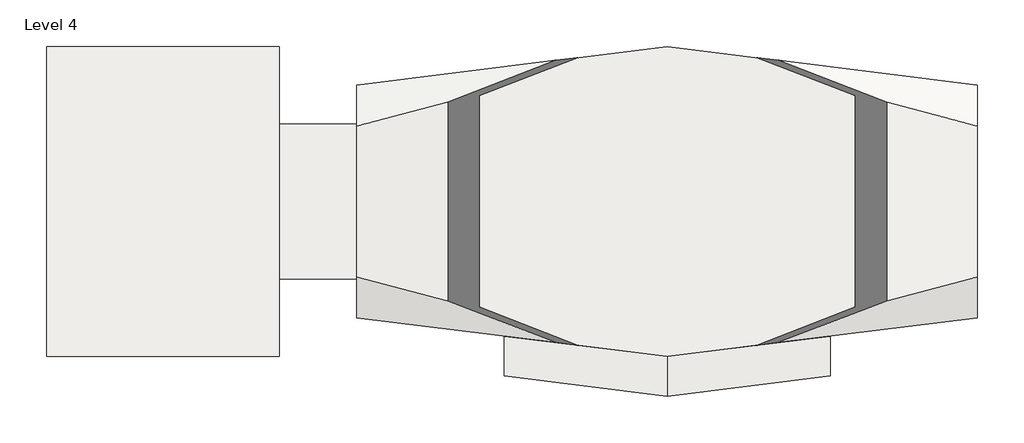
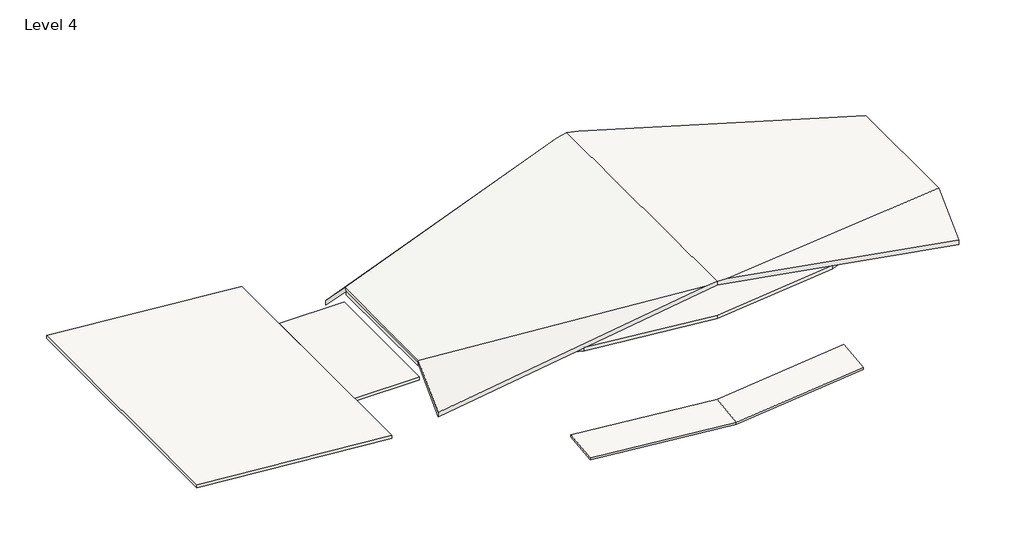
# One storey: 4 roofs, 1 slab.
"""IFC4 building model written with IfcOpenShell, lengths in millimetres."""

from ifc_helpers import new_model, si_unit, frame, origin, place, context, project, spatial, polyline, outline, extrude, faceted_brep, element, save

model = new_model("IFC4")

# Units and contexts
model_context = context("Model", 3, world=origin())
ifc_project = project(units=[si_unit("LENGTHUNIT", "METRE", prefix="MILLI")], contexts=[model_context])

# Site, building, storey
site = spatial("IfcSite", under=ifc_project)
building = spatial("IfcBuilding", under=site)
storey = spatial("IfcBuildingStorey", under=building, Name="Level 4", Elevation=13716.0)

# Roofs
placement = place(None, origin())
element("IfcRoof", 1, ObjectType="Generic - 12\"", at=placement, inside=storey, context=model_context, shape_type="Brep", body=[
    faceted_brep([(-14255.938815, 7181.3810433, 13716.0), (10128.061185, 13582.1810433, 16764.0), (10128.061185, -10801.8189567, 16764.0), (-14255.938815, -4401.0189567, 13716.0), (34512.061185, -4401.0189567, 13716.0), (34512.061185, 7181.3810433, 13716.0), (34512.061185, -7753.8189567, 10363.2), (34512.061185, 10534.1810433, 10363.2), (-14255.938815, 10534.1810433, 10363.2), (-14255.938815, -7753.8189567, 10363.2), (-14255.938815, 7321.1497934, 14023.1720202), (-14255.938815, -4540.7877067, 14023.1720202), (9111.5611848, -10674.7564566, 16944.1095202), (10128.061185, -10801.8189567, 17071.1720202), (10128.061185, 13582.1810433, 17071.1720202), (9111.5611848, 13455.1185433, 16944.1095202), (34512.061185, -4540.7877067, 14023.1720202), (34512.061185, 7321.1497934, 14023.1720202), (11144.5611852, 13455.1185433, 16944.1095202), (11144.5611852, -10674.7564566, 16944.1095202), (34512.061185, -7753.8189567, 10810.1407702), (34512.061185, 10534.1810433, 10810.1407702), (-14255.938815, 10534.1810433, 10810.1407702), (-14255.938815, -7753.8189567, 10810.1407702)], [[[0, 1, 2, 3]], [[4, 2, 1, 5]], [[2, 4, 6]], [[1, 7, 5]], [[1, 0, 8]], [[2, 9, 3]], [[10, 11, 12, 13, 14, 15]], [[16, 17, 18, 14, 13, 19]], [[19, 20, 16]], [[18, 17, 21]], [[15, 22, 10]], [[12, 11, 23]], [[11, 10, 0, 3]], [[23, 11, 3, 9]], [[12, 23, 9, 2, 13]], [[20, 19, 13, 2, 6]], [[16, 20, 6, 4]], [[17, 16, 4, 5]], [[21, 17, 5, 7]], [[18, 21, 7, 1, 14]], [[22, 15, 14, 1, 8]], [[10, 22, 8, 0]]]),
])
element("IfcRoof", 2, ObjectType="Generic - 12\"", at=placement, inside=storey, context=model_context, shape_type="SweptSolid", body=[
    extrude(outline(polyline([(12497.8565023, -20351.938815), (14021.8565023, -38639.938815), (13716.0, -38639.938815), (12192.0, -20351.938815), (12497.8565023, -20351.938815)])), frame((0.0, -10801.8189567, 0.0), z_axis=(0.0, 1.0, 0.0), x_axis=(0.0, 0.0, 1.0)), (0.0, 0.0, 1.0), 24384.0),
])
element("IfcRoof", 3, ObjectType="Generic - 12\"", at=placement, inside=storey, context=model_context, shape_type="SweptSolid", body=[
    extrude(outline(polyline([(-14255.938815, 7486.1810433), (-14255.938815, -4705.8189567), (-20351.938815, -4705.8189567), (-20351.938815, 7486.1810433), (-14255.938815, 7486.1810433)])), frame((0.0, 0.0, 12192.0), z_axis=(0.0, 0.0, 1.0), x_axis=(1.0, 0.0, 0.0)), (0.0, 0.0, 1.0), 304.8),
])
element("IfcRoof", 4, ObjectType="Generic - 9\"", at=placement, inside=storey, context=model_context, shape_type="Brep", body=[
    faceted_brep([(-2673.538815, -9201.6189567, 5186.3440404), (10128.061185, -10801.8189567, 5186.3440404), (10128.061185, -13926.0189567, 4798.8347226), (-2673.538815, -12325.8189567, 4798.8347226), (22929.661185, -9201.6189567, 5186.3440404), (22929.661185, -12325.8189567, 4798.8347226), (-2673.538815, -9201.6189567, 5416.7230556), (-2673.538815, -12325.8189567, 5029.2137378), (10128.061185, -13926.0189567, 5029.2137378), (10128.061185, -10801.8189567, 5416.7230556), (22929.661185, -12325.8189567, 5029.2137378), (22929.661185, -9201.6189567, 5416.7230556)], [[[0, 1, 2, 3]], [[1, 4, 5, 2]], [[6, 7, 8, 9]], [[9, 8, 10, 11]], [[7, 6, 0, 3]], [[8, 7, 3, 2]], [[10, 8, 2, 5]], [[11, 10, 5, 4]], [[9, 11, 4, 1]], [[6, 9, 1, 0]]]),
])

# Slab
element("IfcSlab", 5, ObjectType="Generic - 12\"", at=placement, inside=storey, context=model_context, shape_type="SweptSolid", body=[
    extrude(outline(polyline([(-1483.3673865, -9350.3903852), (-14255.938815, -4401.0189567), (-14255.938815, 7181.3810433), (-1483.3673865, 12130.7524719), (10128.061185, 13582.1810433), (21739.4897564, 12130.7524719), (34512.061185, 7181.3810433), (34512.061185, -4401.0189567), (21739.4897564, -9350.3903852), (10128.061185, -10801.8189567), (-1483.3673865, -9350.3903852)])), frame((0.0, 0.0, 13411.2), z_axis=(0.0, 0.0, 1.0), x_axis=(1.0, 0.0, 0.0)), (0.0, 0.0, 1.0), 304.8),
])

save(model, "model.ifc")
